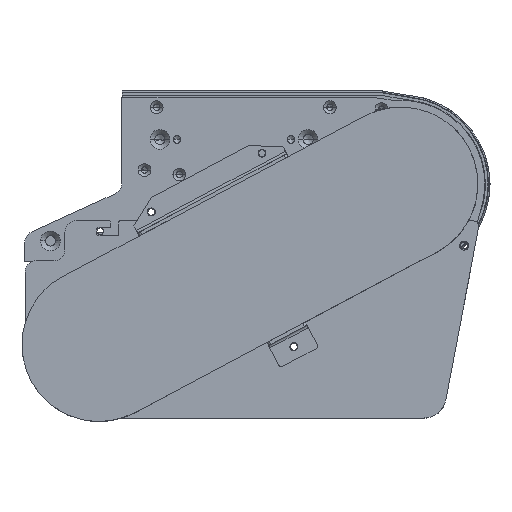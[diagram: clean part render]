
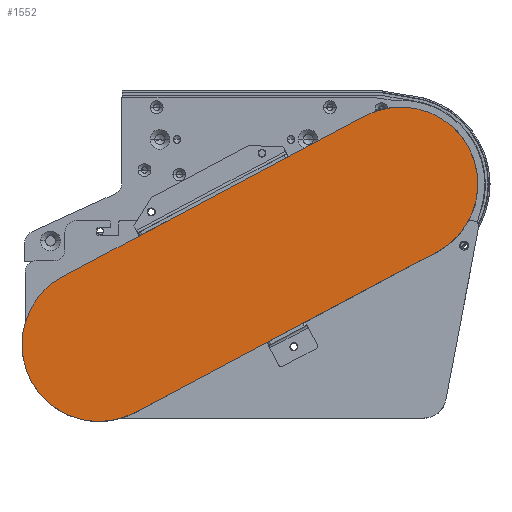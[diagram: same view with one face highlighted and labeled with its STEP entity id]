
A CAD part, top view. The second image highlights one B-rep face of the part: STEP entity #1552.
In plain terms, the highlighted planar face has unit normal (0, 0, 1).
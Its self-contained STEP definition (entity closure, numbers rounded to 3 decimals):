
#770 = EDGE_CURVE ( 'NONE', #1163, #3057, #18344, .T. ) ;
#904 = EDGE_CURVE ( 'NONE', #6571, #4618, #17374, .T. ) ;
#1163 = VERTEX_POINT ( 'NONE', #18969 ) ;
#1414 = CARTESIAN_POINT ( 'NONE',  ( 31.689, -59.599, 115.5 ) ) ;
#1552 = ADVANCED_FACE ( 'NONE', ( #2046 ), #9310, .T. ) ;
#2046 = FACE_OUTER_BOUND ( 'NONE', #20221, .T. ) ;
#3057 = VERTEX_POINT ( 'NONE', #15107 ) ;
#4117 = EDGE_CURVE ( 'NONE', #5777, #6571, #5575, .T. ) ;
#4128 = AXIS2_PLACEMENT_3D ( 'NONE', #5755, #16623, #11979 ) ;
#4299 = DIRECTION ( 'NONE',  ( 0., 0., 1. ) ) ;
#4385 = AXIS2_PLACEMENT_3D ( 'NONE', #13530, #4299, #16671 ) ;
#4449 = VECTOR ( 'NONE', #10059, 1000. ) ;
#4618 = VERTEX_POINT ( 'NONE', #9690 ) ;
#4768 = DIRECTION ( 'NONE',  ( 1., 0., 0. ) ) ;
#5197 = EDGE_CURVE ( 'NONE', #4618, #1163, #16719, .T. ) ;
#5522 = CARTESIAN_POINT ( 'NONE',  ( -31.689, 59.599, 115.5 ) ) ;
#5575 = CIRCLE ( 'NONE', #12693, 67.5 ) ;
#5755 = CARTESIAN_POINT ( 'NONE',  ( -264.884, -140.841, 115.5 ) ) ;
#5777 = VERTEX_POINT ( 'NONE', #17336 ) ;
#5818 = ORIENTED_EDGE ( 'NONE', *, *, #5197, .T. ) ;
#6013 = DIRECTION ( 'NONE',  ( 0., 0., 1. ) ) ;
#6147 = AXIS2_PLACEMENT_3D ( 'NONE', #7626, #6013, #10873 ) ;
#6571 = VERTEX_POINT ( 'NONE', #15676 ) ;
#7518 = DIRECTION ( 'NONE',  ( 0.883, 0.469, 0. ) ) ;
#7626 = CARTESIAN_POINT ( 'NONE',  ( 0., 0., 115.5 ) ) ;
#7874 = CIRCLE ( 'NONE', #4128, 67.5 ) ;
#9310 = PLANE ( 'NONE',  #6147 ) ;
#9471 = ORIENTED_EDGE ( 'NONE', *, *, #904, .T. ) ;
#9690 = CARTESIAN_POINT ( 'NONE',  ( 31.689, -59.599, 115.5 ) ) ;
#10059 = DIRECTION ( 'NONE',  ( -0.883, -0.469, 0. ) ) ;
#10873 = DIRECTION ( 'NONE',  ( 1., 0., 0. ) ) ;
#11495 = EDGE_CURVE ( 'NONE', #3057, #5777, #7874, .T. ) ;
#11979 = DIRECTION ( 'NONE',  ( 1., 0., 0. ) ) ;
#12620 = ORIENTED_EDGE ( 'NONE', *, *, #770, .T. ) ;
#12693 = AXIS2_PLACEMENT_3D ( 'NONE', #18936, #13994, #4768 ) ;
#13530 = CARTESIAN_POINT ( 'NONE',  ( 0., 0., 115.5 ) ) ;
#13994 = DIRECTION ( 'NONE',  ( 0., 0., 1. ) ) ;
#15107 = CARTESIAN_POINT ( 'NONE',  ( -296.574, -81.243, 115.5 ) ) ;
#15537 = ORIENTED_EDGE ( 'NONE', *, *, #11495, .T. ) ;
#15676 = CARTESIAN_POINT ( 'NONE',  ( -233.195, -200.44, 115.5 ) ) ;
#16623 = DIRECTION ( 'NONE',  ( 0., 0., 1. ) ) ;
#16671 = DIRECTION ( 'NONE',  ( 1., 0., 0. ) ) ;
#16719 = CIRCLE ( 'NONE', #4385, 67.5 ) ;
#17336 = CARTESIAN_POINT ( 'NONE',  ( -332.384, -140.841, 115.5 ) ) ;
#17374 = LINE ( 'NONE', #1414, #17853 ) ;
#17853 = VECTOR ( 'NONE', #7518, 1000. ) ;
#18344 = LINE ( 'NONE', #5522, #4449 ) ;
#18936 = CARTESIAN_POINT ( 'NONE',  ( -264.884, -140.841, 115.5 ) ) ;
#18969 = CARTESIAN_POINT ( 'NONE',  ( -31.689, 59.599, 115.5 ) ) ;
#20075 = ORIENTED_EDGE ( 'NONE', *, *, #4117, .T. ) ;
#20221 = EDGE_LOOP ( 'NONE', ( #5818, #12620, #15537, #20075, #9471 ) ) ;
